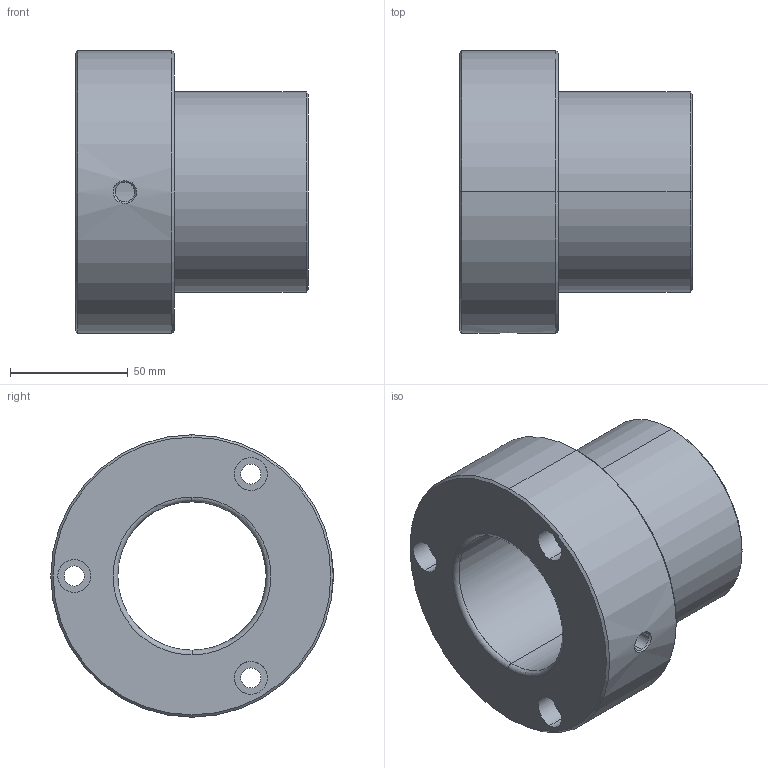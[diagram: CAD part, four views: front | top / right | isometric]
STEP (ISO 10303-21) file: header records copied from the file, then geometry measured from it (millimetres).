
FILE_DESCRIPTION(('CATIA V5 STEP Exchange'),'2;1');
FILE_NAME('C:\Users\Utente\Desktop\IO LAVORO\3D X SITO CF\X SITO\345-346\345-63.stp','2020-12-25T21:09:46+00:00',('none'),('none'),'CATIA Version 5 Release 20 GA (IN-10)','CATIA V5 STEP AP203','none');
FILE_SCHEMA(('CONFIG_CONTROL_DESIGN'));
Length unit declared in the file: millimetre
Products named in the file (1): 345-63
Bounding box: 99 x 120 x 120 mm (x, y, z)
Volume: 475804.2 mm3; surface area: 70447.5 mm2
Topology: 1 solids, 1 shells, 39 faces, 176 edges, 144 vertices
Faces by surface type: cylinder 22, cone 8, plane 7, torus 2
Entity records: 2217 total; most frequent: CARTESIAN_POINT 717, ORIENTED_EDGE 352, DIRECTION 228, EDGE_CURVE 176, AXIS2_PLACEMENT_3D 160, VERTEX_POINT 144, CIRCLE 120, EDGE_LOOP 54
